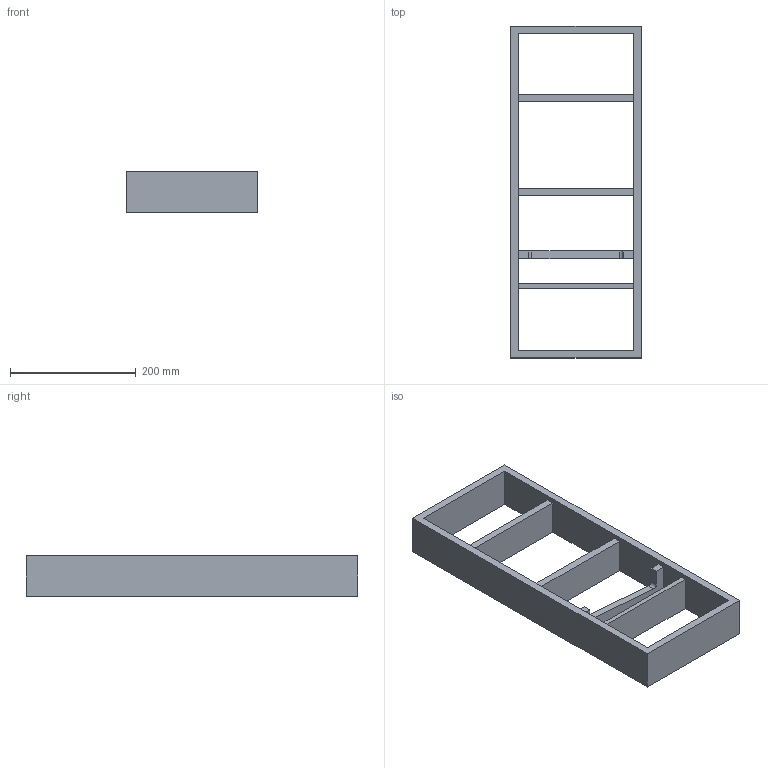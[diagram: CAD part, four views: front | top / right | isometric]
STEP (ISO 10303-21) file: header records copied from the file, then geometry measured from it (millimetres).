
FILE_DESCRIPTION (( 'STEP AP214' ), '1' );
FILE_NAME ('Vario Messer_Modul_H65_NL550_B300_16mm_Alu_Buche.step', '2010-10-07T06:11:48', ( 'grass' ), ( '' ), 'SwSTEP 2.0', 'SolidWorks 2010', '' );
FILE_SCHEMA (( 'AUTOMOTIVE_DESIGN' ));
Length unit declared in the file: millimetre
Products named in the file (1): Vario Messer_Modul_H65_NL550_B300_16mm_Alu_Buche
Bounding box: 208 x 529 x 65 mm (x, y, z)
Volume: 1527082.7 mm3; surface area: 307483.3 mm2
Topology: 1 solids, 1 shells, 28 faces, 90 edges, 60 vertices
Faces by surface type: plane 26, cylinder 2
Entity records: 1032 total; most frequent: ORIENTED_EDGE 180, CARTESIAN_POINT 179, DIRECTION 152, EDGE_CURVE 90, LINE 86, VECTOR 86, VERTEX_POINT 60, EDGE_LOOP 34
